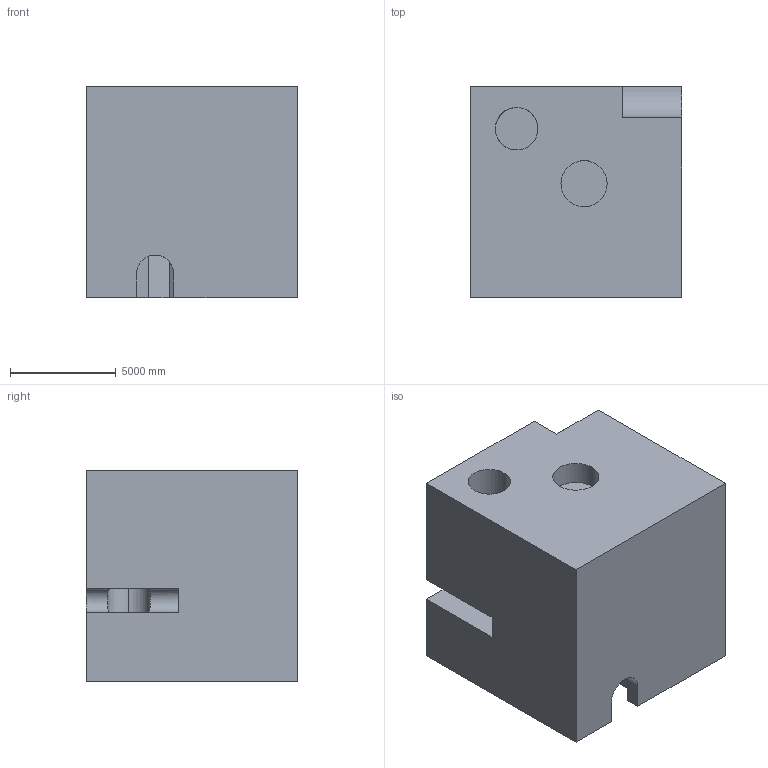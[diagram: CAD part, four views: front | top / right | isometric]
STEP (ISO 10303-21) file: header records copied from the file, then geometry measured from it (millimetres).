
FILE_DESCRIPTION (( 'STEP AP203' ), '1' );
FILE_NAME ('777.STEP', '2022-07-29T13:08:22', ( 'user' ), ( '' ), 'SwSTEP 2.0', 'SolidWorks 2021', '' );
FILE_SCHEMA (( 'CONFIG_CONTROL_DESIGN' ));
Length unit declared in the file: centimetre
Products named in the file (1): 777
Bounding box: 10000 x 10000 x 10000 mm (x, y, z)
Volume: 912531341999.5 mm3; surface area: 739507015.9 mm2
Topology: 1 solids, 1 shells, 41 faces, 117 edges, 78 vertices
Faces by surface type: plane 33, cylinder 8
Entity records: 1636 total; most frequent: CARTESIAN_POINT 473, ORIENTED_EDGE 234, DIRECTION 215, EDGE_CURVE 117, LINE 95, VECTOR 95, VERTEX_POINT 78, AXIS2_PLACEMENT_3D 60
